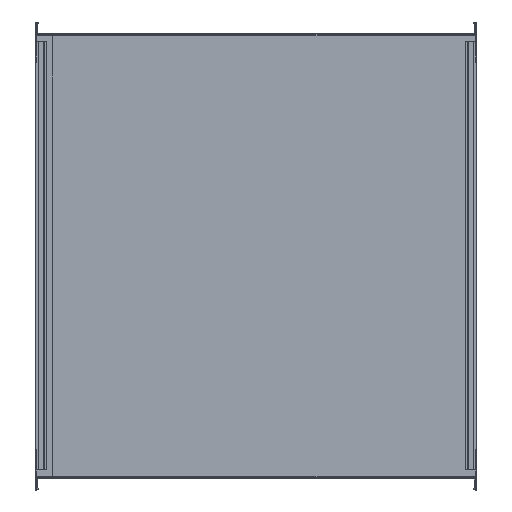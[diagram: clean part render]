
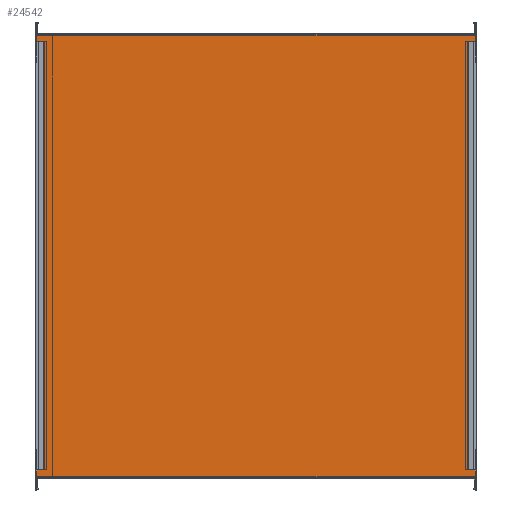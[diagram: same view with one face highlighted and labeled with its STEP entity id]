
A CAD part, top view. The second image highlights one B-rep face of the part: STEP entity #24542.
In plain terms, the highlighted planar face has unit normal (0, 0, 1).
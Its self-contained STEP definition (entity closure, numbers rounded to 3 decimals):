
#784=FACE_BOUND('',#3523,.T.);
#785=FACE_BOUND('',#3524,.T.);
#2222=FACE_OUTER_BOUND('',#3522,.T.);
#3522=EDGE_LOOP('',(#21918,#21919,#21920,#21921,#21922,#21923));
#3523=EDGE_LOOP('',(#21924,#21925,#21926,#21927));
#3524=EDGE_LOOP('',(#21928,#21929,#21930,#21931));
#4347=LINE('',#33276,#6899);
#4756=LINE('',#36899,#7308);
#4823=LINE('',#37108,#7375);
#4840=LINE('',#37164,#7392);
#4906=LINE('',#37388,#7458);
#5688=LINE('',#39648,#8240);
#5691=LINE('',#39654,#8243);
#5701=LINE('',#39680,#8253);
#6220=LINE('',#40947,#8772);
#6223=LINE('',#40953,#8775);
#6232=LINE('',#40977,#8784);
#6568=LINE('',#41703,#9120);
#6569=LINE('',#41705,#9121);
#6586=LINE('',#41733,#9138);
#6899=VECTOR('',#26371,10.);
#7308=VECTOR('',#26968,10.);
#7375=VECTOR('',#27123,10.);
#7392=VECTOR('',#27164,10.);
#7458=VECTOR('',#27332,10.);
#8240=VECTOR('',#29014,10.);
#8243=VECTOR('',#29019,10.);
#8253=VECTOR('',#29051,10.);
#8772=VECTOR('',#30302,10.);
#8775=VECTOR('',#30307,10.);
#8784=VECTOR('',#30338,10.);
#9120=VECTOR('',#31078,10.);
#9121=VECTOR('',#31081,10.);
#9138=VECTOR('',#31108,10.);
#9466=VERTEX_POINT('',#33273);
#9467=VERTEX_POINT('',#33275);
#9965=VERTEX_POINT('',#36896);
#9966=VERTEX_POINT('',#36898);
#10063=VERTEX_POINT('',#37106);
#10064=VERTEX_POINT('',#37107);
#10090=VERTEX_POINT('',#37161);
#10091=VERTEX_POINT('',#37163);
#10197=VERTEX_POINT('',#37386);
#10198=VERTEX_POINT('',#37387);
#10858=VERTEX_POINT('',#39646);
#10859=VERTEX_POINT('',#39650);
#11247=VERTEX_POINT('',#40945);
#11248=VERTEX_POINT('',#40949);
#11935=EDGE_CURVE('',#9467,#9466,#4347,.T.);
#12678=EDGE_CURVE('',#9965,#9966,#4756,.T.);
#12782=EDGE_CURVE('',#10063,#10064,#4823,.T.);
#12810=EDGE_CURVE('',#10091,#10090,#4840,.T.);
#12921=EDGE_CURVE('',#10197,#10198,#4906,.T.);
#13883=EDGE_CURVE('',#10090,#10858,#5688,.T.);
#13886=EDGE_CURVE('',#10859,#10091,#5691,.T.);
#13900=EDGE_CURVE('',#10858,#10859,#5701,.T.);
#14541=EDGE_CURVE('',#10198,#11247,#6220,.T.);
#14544=EDGE_CURVE('',#11248,#10197,#6223,.T.);
#14557=EDGE_CURVE('',#11247,#11248,#6232,.T.);
#14924=EDGE_CURVE('',#10064,#9466,#6568,.T.);
#14925=EDGE_CURVE('',#9966,#10063,#6569,.T.);
#14942=EDGE_CURVE('',#9467,#9965,#6586,.T.);
#21918=ORIENTED_EDGE('',*,*,#11935,.T.);
#21919=ORIENTED_EDGE('',*,*,#14924,.F.);
#21920=ORIENTED_EDGE('',*,*,#12782,.F.);
#21921=ORIENTED_EDGE('',*,*,#14925,.F.);
#21922=ORIENTED_EDGE('',*,*,#12678,.F.);
#21923=ORIENTED_EDGE('',*,*,#14942,.F.);
#21924=ORIENTED_EDGE('',*,*,#13886,.T.);
#21925=ORIENTED_EDGE('',*,*,#12810,.T.);
#21926=ORIENTED_EDGE('',*,*,#13883,.T.);
#21927=ORIENTED_EDGE('',*,*,#13900,.T.);
#21928=ORIENTED_EDGE('',*,*,#14544,.T.);
#21929=ORIENTED_EDGE('',*,*,#12921,.T.);
#21930=ORIENTED_EDGE('',*,*,#14541,.T.);
#21931=ORIENTED_EDGE('',*,*,#14557,.T.);
#22631=PLANE('',#25888);
#24542=ADVANCED_FACE('',(#2222,#784,#785),#22631,.T.);
#25888=AXIS2_PLACEMENT_3D('',#41738,#31116,#31117);
#26371=DIRECTION('',(-1.,0.,0.));
#26968=DIRECTION('',(-1.,0.,0.));
#27123=DIRECTION('',(0.,1.,0.));
#27164=DIRECTION('',(1.,0.,0.));
#27332=DIRECTION('',(-1.,0.,0.));
#29014=DIRECTION('',(0.,-1.,0.));
#29019=DIRECTION('',(0.,1.,0.));
#29051=DIRECTION('',(-1.,0.,0.));
#30302=DIRECTION('',(0.,1.,0.));
#30307=DIRECTION('',(0.,-1.,0.));
#30338=DIRECTION('',(1.,0.,0.));
#31078=DIRECTION('',(0.,1.,0.));
#31081=DIRECTION('',(0.,1.,0.));
#31108=DIRECTION('',(0.,-1.,0.));
#31116=DIRECTION('center_axis',(0.,0.,1.));
#31117=DIRECTION('ref_axis',(1.,0.,0.));
#33273=CARTESIAN_POINT('',(-998.,1003.,1.5));
#33275=CARTESIAN_POINT('',(0.,1003.,1.5));
#33276=CARTESIAN_POINT('',(-748.5,1003.,1.5));
#36896=CARTESIAN_POINT('',(0.,0.,1.5));
#36898=CARTESIAN_POINT('',(-998.,0.,1.5));
#36899=CARTESIAN_POINT('',(-249.5,0.,1.5));
#37106=CARTESIAN_POINT('',(-998.,16.5,1.5));
#37107=CARTESIAN_POINT('',(-998.,986.5,1.5));
#37108=CARTESIAN_POINT('',(-998.,0.,1.5));
#37161=CARTESIAN_POINT('',(-978.359,986.5,1.5));
#37163=CARTESIAN_POINT('',(-991.81,986.5,1.5));
#37164=CARTESIAN_POINT('',(-745.51,986.5,1.5));
#37386=CARTESIAN_POINT('',(-5.79,16.5,1.5));
#37387=CARTESIAN_POINT('',(-19.241,16.5,1.5));
#37388=CARTESIAN_POINT('',(-252.29,16.5,1.5));
#39646=CARTESIAN_POINT('',(-978.359,16.5,1.5));
#39648=CARTESIAN_POINT('',(-978.359,744.,1.5));
#39650=CARTESIAN_POINT('',(-991.81,16.5,1.5));
#39654=CARTESIAN_POINT('',(-991.81,986.5,1.5));
#39680=CARTESIAN_POINT('',(-745.51,16.5,1.5));
#40945=CARTESIAN_POINT('',(-19.241,986.5,1.5));
#40947=CARTESIAN_POINT('',(-19.241,259.,1.5));
#40949=CARTESIAN_POINT('',(-5.79,986.5,1.5));
#40953=CARTESIAN_POINT('',(-5.79,16.5,1.5));
#40977=CARTESIAN_POINT('',(-252.29,986.5,1.5));
#41703=CARTESIAN_POINT('',(-998.,0.,1.5));
#41705=CARTESIAN_POINT('',(-998.,0.,1.5));
#41733=CARTESIAN_POINT('',(0.,1003.,1.5));
#41738=CARTESIAN_POINT('Origin',(-499.,501.5,1.5));
